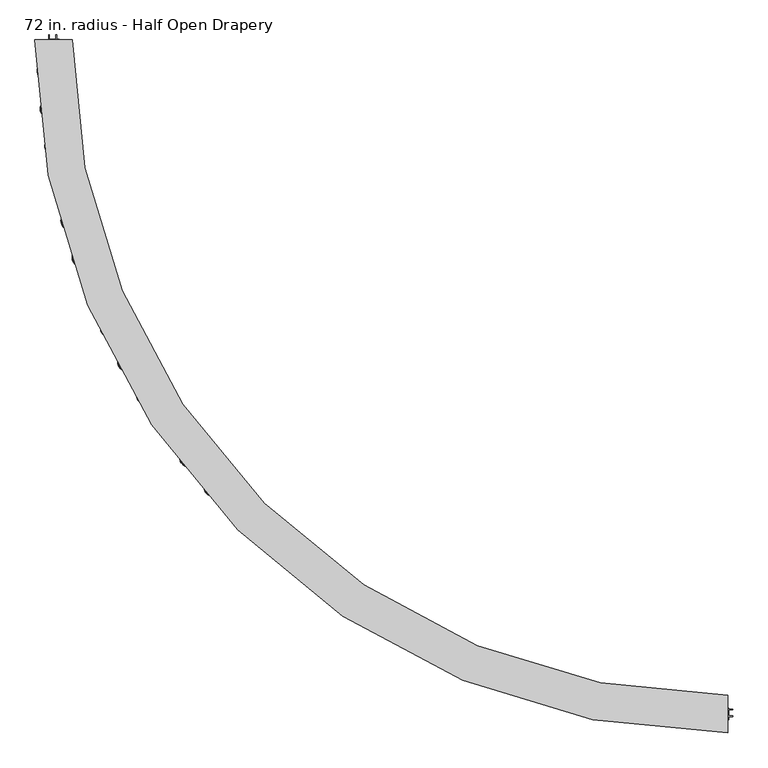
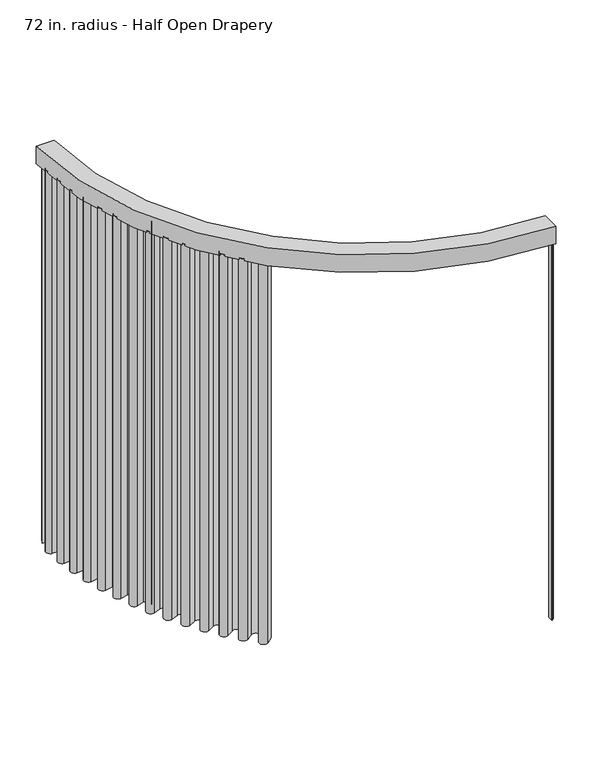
"""IFC4 building model written with IfcOpenShell, lengths in millimetres: furniture geometry, Haworth_Pergola_Drapery_Radial : 72 in. radius - Half Open Drapery."""

from ifc_helpers import new_model, si_unit, point, frame, frame_2d, origin, place, context, project, spatial, polyline, circle_curve, trimmed, segment, composite_curve, outline, extrude, source, transform, mapped, element, save
from ifc_brep_helpers import plane_surface, cylinder_surface, revolved_surface, advanced_brep


def furniture_72_in_radius_half_open_drapery_df3e1c9b(model_context):
    return source(origin(), model_context, "Body", "SolidModel", [
        advanced_brep(
        [(38.1006913, -1880.0004562, 2438.4), (38.1006913, -1880.0004562, 2331.8390625), (38.1006913, -1844.418751, 2331.8390625), (38.1006913, -1844.418751, 2388.7001663), (38.1006913, -1813.9821615, 2388.7001663), (38.1006913, -1813.9821615, 2331.8390625), (38.1006913, -1778.4004562, 2331.8390625), (38.1006913, -1778.4004562, 2438.4), (-1841.899765, 0.0, 2438.4), (-1740.299765, 0.0, 2438.4), (-1740.299765, 0.0, 2331.8390625), (-1775.8814702, 0.0, 2331.8390625), (-1775.8814702, 0.0, 2388.7001663), (-1806.3180598, 0.0, 2388.7001663), (-1806.3180598, 0.0, 2331.8390625), (-1841.899765, 0.0, 2331.8390625)],
        [
            (0, 1),
            (1, 2),
            (2, 3),
            (3, 4),
            (4, 5),
            (5, 6),
            (6, 7),
            (7, 0),
            (8, 9),
            (9, 10),
            (10, 11),
            (11, 12),
            (12, 13),
            (13, 14),
            (14, 15),
            (15, 8),
            (8, 0, circle_curve(frame((38.1006913, 0.0, 2438.4), z_axis=(0.0, 0.0, 1.0), x_axis=(0.0, -1.0, 0.0)), 1880.0004562)),
            (7, 9, circle_curve(frame((38.1006913, 0.0, 2438.4), z_axis=(0.0, 0.0, -1.0), x_axis=(0.0, -1.0, 0.0)), 1778.4004562)),
            (6, 10, circle_curve(frame((38.1006913, 0.0, 2331.8390625), z_axis=(0.0, 0.0, -1.0), x_axis=(0.0, -1.0, 0.0)), 1778.4004562)),
            (15, 1, circle_curve(frame((38.1006913, 0.0, 2331.8390625), z_axis=(0.0, 0.0, 1.0), x_axis=(0.0, -1.0, 0.0)), 1880.0004562)),
            (5, 11, circle_curve(frame((38.1006913, 0.0, 2331.8390625), z_axis=(0.0, 0.0, -1.0), x_axis=(0.0, -1.0, 0.0)), 1813.9821615)),
            (4, 12, circle_curve(frame((38.1006913, 0.0, 2388.7001663), z_axis=(0.0, 0.0, -1.0), x_axis=(0.0, -1.0, 0.0)), 1813.9821615)),
            (3, 13, circle_curve(frame((38.1006913, 0.0, 2388.7001663), z_axis=(0.0, 0.0, -1.0), x_axis=(0.0, -1.0, 0.0)), 1844.418751)),
            (2, 14, circle_curve(frame((38.1006913, 0.0, 2331.8390625), z_axis=(0.0, 0.0, -1.0), x_axis=(0.0, -1.0, 0.0)), 1844.418751)),
        ],
        [
            plane_surface(frame((38.1006913, 0.0, 2451.1), z_axis=(1.0, 0.0, 0.0), x_axis=(0.0, -1.0, 0.0))),
            plane_surface(frame((38.1006913, 0.0, 2451.1), z_axis=(0.0, 1.0, 0.0), x_axis=(-1.0, 0.0, 0.0))),
            plane_surface(frame((38.1006913, 0.0, 2438.4), z_axis=(0.0, 0.0, 1.0), x_axis=(0.0, -1.0, 0.0))),
            revolved_surface(polyline([(38.1006913, -1778.4004562, 2438.4), (38.1006913, -1778.4004562, 2331.8390625)]), (38.1006913, 0.0, 2451.1), (0.0, 0.0, 1.0)),
            cylinder_surface(frame((38.1006913, 0.0, 2451.1), z_axis=(0.0, 0.0, 1.0), x_axis=(0.0, -1.0, 0.0)), 1880.0004562),
            plane_surface(frame((38.1006913, 0.0, 2331.8390625), z_axis=(0.0, 0.0, -1.0), x_axis=(0.0, -1.0, 0.0))),
            cylinder_surface(frame((38.1006913, 0.0, 2451.1), z_axis=(0.0, 0.0, 1.0), x_axis=(0.0, -1.0, 0.0)), 1813.9821615),
            plane_surface(frame((38.1006913, 0.0, 2388.7001663), z_axis=(0.0, 0.0, -1.0), x_axis=(0.0, -1.0, 0.0))),
            revolved_surface(polyline([(38.1006913, -1844.418751, 2388.7001663), (38.1006913, -1844.418751, 2331.8390625)]), (38.1006913, 0.0, 2451.1), (0.0, 0.0, 1.0)),
        ],
        [
            (0, [[1, 2, 3, 4, 5, 6, 7, 8]]),
            (1, [[9, 10, 11, 12, 13, 14, 15, 16]]),
            (2, [[-9, 17, -8, 18]]),
            (3, [[-10, -18, -7, 19]]),
            (4, [[-16, 20, -1, -17]]),
            (5, [[-11, -19, -6, 21]]),
            (6, [[-12, -21, -5, 22]]),
            (7, [[-13, -22, -4, 23]]),
            (8, [[-14, -23, -3, 24]]),
            (5, [[-15, -24, -2, -20]]),
        ],
    ),
        extrude(outline(composite_curve([segment(polyline([(-1813.2675039, -8.7991729), (-1772.6295579, -8.7991729)]), True, "CONTINUOUS"), segment(trimmed(circle_curve(frame_2d((-1772.6295579, -32.2004487)), 23.4012758), [point((-1772.6295579, -8.7991729))], [point((-1769.5733154, -55.4012911))], False, "CARTESIAN"), True, "CONTINUOUS"), segment(polyline([(-1769.5733154, -55.4012911), (-1814.5820386, -61.3302815)]), True, "CONTINUOUS"), segment(trimmed(circle_curve(frame_2d((-1811.5275882, -84.5175193)), 23.3875536), [point((-1814.5820386, -61.3302815))], [point((-1812.4679448, -107.8861606))], True, "CARTESIAN"), True, "CONTINUOUS"), segment(polyline([(-1812.4679448, -107.8861606), (-1767.0772376, -109.7126875)]), True, "CONTINUOUS"), segment(trimmed(circle_curve(frame_2d((-1768.0180469, -133.0925785)), 23.3988125), [point((-1767.0772376, -109.7126875))], [point((-1763.6719207, -156.0842208))], False, "CARTESIAN"), True, "CONTINUOUS"), segment(polyline([(-1763.6719207, -156.0842208), (-1808.1390259, -164.4898686)]), True, "CONTINUOUS"), segment(trimmed(circle_curve(frame_2d((-1803.7922369, -187.4850177)), 23.4023814), [point((-1808.1390259, -164.4898686))], [point((-1803.4264268, -210.8845398))], True, "CARTESIAN"), True, "CONTINUOUS"), segment(polyline([(-1803.4264268, -210.8845398), (-1758.1544767, -210.1767931)]), True, "CONTINUOUS"), segment(trimmed(circle_curve(frame_2d((-1757.788763, -233.5701509)), 23.3962162), [point((-1758.1544767, -210.1767931))], [point((-1752.1666126, -256.280817))], False, "CARTESIAN"), True, "CONTINUOUS"), segment(polyline([(-1752.1666126, -256.280817), (-1796.2385255, -267.1910617)]), True, "CONTINUOUS"), segment(trimmed(circle_curve(frame_2d((-1790.6174697, -289.897306)), 23.3916608), [point((-1796.2385255, -267.1910617))], [point((-1788.9468109, -313.2292304))], True, "CARTESIAN"), True, "CONTINUOUS"), segment(polyline([(-1788.9468109, -313.2292304), (-1743.6418444, -309.9852142)]), True, "CONTINUOUS"), segment(trimmed(circle_curve(frame_2d((-1741.9710116, -333.3195691)), 23.3940975), [point((-1743.6418444, -309.9852142))], [point((-1735.090504, -355.6789611))], False, "CARTESIAN"), True, "CONTINUOUS"), segment(polyline([(-1735.090504, -355.6789611), (-1778.2790827, -368.9690964)]), True, "CONTINUOUS"), segment(trimmed(circle_curve(frame_2d((-1771.3933974, -391.345314)), 23.4117016), [point((-1778.2790827, -368.9690964))], [point((-1768.4203708, -414.5674777))], True, "CARTESIAN"), True, "CONTINUOUS"), segment(polyline([(-1768.4203708, -414.5674777), (-1723.6645333, -408.8375939)]), True, "CONTINUOUS"), segment(trimmed(circle_curve(frame_2d((-1720.6927841, -432.0497797)), 23.4016423), [point((-1723.6645333, -408.8375939))], [point((-1712.5722691, -453.9973104))], False, "CARTESIAN"), True, "CONTINUOUS"), segment(polyline([(-1712.5722691, -453.9973104), (-1755.1039522, -469.7338948)]), True, "CONTINUOUS"), segment(trimmed(circle_curve(frame_2d((-1746.9867429, -491.6724911)), 23.3921161), [point((-1755.1039522, -469.7338948))], [point((-1742.7256125, -514.6732272))], True, "CARTESIAN"), True, "CONTINUOUS"), segment(polyline([(-1742.7256125, -514.6732272), (-1697.9086259, -506.3704048)]), True, "CONTINUOUS"), segment(trimmed(circle_curve(frame_2d((-1693.6505392, -529.3547116)), 23.3754072), [point((-1697.9086259, -506.3704048))], [point((-1684.3279752, -550.7906503))], False, "CARTESIAN"), True, "CONTINUOUS"), segment(polyline([(-1684.3279752, -550.7906503), (-1726.0260801, -568.9253005)]), True, "CONTINUOUS"), segment(trimmed(circle_curve(frame_2d((-1716.6931292, -590.3851225)), 23.4014515), [point((-1726.0260801, -568.9253005))], [point((-1711.1524728, -613.1211965))], True, "CARTESIAN"), True, "CONTINUOUS"), segment(polyline([(-1711.1524728, -613.1211965), (-1667.3171935, -602.4387796)]), True, "CONTINUOUS"), segment(trimmed(circle_curve(frame_2d((-1661.7731813, -625.1886241)), 23.415625), [point((-1667.3171935, -602.4387796))], [point((-1651.2505193, -646.1066804))], False, "CARTESIAN"), True, "CONTINUOUS"), segment(polyline([(-1651.2505193, -646.1066804), (-1691.4084565, -666.3078116)]), True, "CONTINUOUS"), segment(trimmed(circle_curve(frame_2d((-1680.8857945, -687.2258679)), 23.415625), [point((-1691.4084565, -666.3078116))], [point((-1674.0805411, -709.6307785))], True, "CARTESIAN"), True, "CONTINUOUS"), segment(polyline([(-1674.0805411, -709.6307785), (-1631.0682332, -696.5662472)]), True, "CONTINUOUS"), segment(trimmed(circle_curve(frame_2d((-1624.2629798, -718.9711579)), 23.415625), [point((-1631.0682332, -696.5662472))], [point((-1612.5890376, -739.2692013))], False, "CARTESIAN"), True, "CONTINUOUS"), segment(polyline([(-1612.5890376, -739.2692013), (-1651.5569066, -761.6806544)]), True, "CONTINUOUS"), segment(trimmed(circle_curve(frame_2d((-1639.8829645, -781.9786979)), 23.415625), [point((-1651.5569066, -761.6806544))], [point((-1631.8376273, -803.9687876))], True, "CARTESIAN"), True, "CONTINUOUS"), segment(polyline([(-1631.8376273, -803.9687876), (-1589.621034, -788.5233422)]), True, "CONTINUOUS"), segment(trimmed(circle_curve(frame_2d((-1581.5756968, -810.5134319)), 23.415625), [point((-1589.621034, -788.5233422))], [point((-1568.7868916, -830.1281701))], False, "CARTESIAN"), True, "CONTINUOUS"), segment(polyline([(-1568.7868916, -830.1281701), (-1606.4430265, -854.679962)]), True, "CONTINUOUS"), segment(trimmed(circle_curve(frame_2d((-1593.6542213, -874.2947002)), 23.415625), [point((-1606.4430265, -854.679962))], [point((-1584.3938871, -895.80139))], True, "CARTESIAN"), True, "CONTINUOUS"), segment(polyline([(-1584.3938871, -895.80139), (-1543.1059922, -878.0236793)]), True, "CONTINUOUS"), segment(trimmed(circle_curve(frame_2d((-1533.8456579, -899.5303691)), 23.415625), [point((-1543.1059922, -878.0236793))], [point((-1519.9818326, -918.400606))], False, "CARTESIAN"), True, "CONTINUOUS"), segment(polyline([(-1519.9818326, -918.400606), (-1556.208361, -945.0159719)]), True, "CONTINUOUS"), segment(trimmed(circle_curve(frame_2d((-1542.3445357, -963.8862088)), 23.415625), [point((-1556.208361, -945.0159719))], [point((-1531.8981359, -984.8424543))], True, "CARTESIAN"), True, "CONTINUOUS"), segment(polyline([(-1531.8981359, -984.8424543), (-1491.6668228, -964.7876988)]), True, "CONTINUOUS"), segment(trimmed(circle_curve(frame_2d((-1481.220423, -985.7439443)), 23.415625), [point((-1491.6668228, -964.7876988))], [point((-1466.324897, -1003.8108975))], False, "CARTESIAN"), True, "CONTINUOUS"), segment(polyline([(-1466.324897, -1003.8108975), (-1501.0096283, -1032.4071589)]), True, "CONTINUOUS"), segment(trimmed(circle_curve(frame_2d((-1486.1141024, -1050.4741121)), 23.415625), [point((-1501.0096283, -1032.4071589))], [point((-1474.5141735, -1070.8145434))], True, "CARTESIAN"), True, "CONTINUOUS"), segment(polyline([(-1474.5141735, -1070.8145434), (-1435.4647784, -1048.545094)]), True, "CONTINUOUS"), segment(trimmed(circle_curve(frame_2d((-1423.8648496, -1068.8855253)), 23.415625), [point((-1435.4647784, -1048.545094))], [point((-1407.9840223, -1086.092815))], False, "CARTESIAN"), True, "CONTINUOUS"), segment(polyline([(-1407.9840223, -1086.092815), (-1441.0181065, -1116.5803929)]), True, "CONTINUOUS"), segment(trimmed(circle_curve(frame_2d((-1425.1372792, -1133.7876826)), 23.415625), [point((-1441.0181065, -1116.5803929))], [point((-1412.4200042, -1153.4488731))], True, "CARTESIAN"), True, "CONTINUOUS"), segment(polyline([(-1412.4200042, -1153.4488731), (-1374.6748643, -1129.034516)]), True, "CONTINUOUS"), segment(trimmed(circle_curve(frame_2d((-1361.9575893, -1148.6957065)), 23.415625), [point((-1374.6748643, -1129.034516))], [point((-1345.1409844, -1164.9896714))], False, "CARTESIAN"), True, "CONTINUOUS"), segment(polyline([(-1345.1409844, -1164.9896714), (-1376.4215721, -1197.2736052)]), True, "CONTINUOUS"), segment(trimmed(circle_curve(frame_2d((-1359.6049671, -1213.5675701)), 23.415625), [point((-1376.4215721, -1197.2736052))], [point((-1345.8100214, -1232.4882193))], True, "CARTESIAN"), True, "CONTINUOUS"), segment(polyline([(-1345.8100214, -1232.4882193), (-1309.4865095, -1206.004938)]), True, "CONTINUOUS"), segment(trimmed(circle_curve(frame_2d((-1295.6915637, -1224.9255872)), 23.415625), [point((-1309.4865095, -1206.004938))], [point((-1277.9916148, -1240.2554046))], False, "CARTESIAN"), True, "CONTINUOUS"), segment(polyline([(-1277.9916148, -1240.2554046), (-1307.4214654, -1274.2353823)]), True, "CONTINUOUS"), segment(trimmed(circle_curve(frame_2d((-1289.7215165, -1289.5651997)), 23.415625), [point((-1307.4214654, -1274.2353823))], [point((-1274.8918808, -1307.6862757))], True, "CARTESIAN"), True, "CONTINUOUS"), segment(polyline([(-1274.8918808, -1307.6862757), (-1240.1648625, -1279.2669353), (-1239.6008033, -1279.8309945), (-1274.3891813, -1308.3005495)]), True, "CONTINUOUS"), segment(trimmed(circle_curve(frame_2d((-1289.7215165, -1289.5651997)), 24.209375), [point((-1274.3891813, -1308.3005495))], [point((-1308.0214637, -1273.7157274))], False, "CARTESIAN"), True, "CONTINUOUS"), segment(polyline([(-1308.0214637, -1273.7157274), (-1278.5916131, -1239.7357497)]), True, "CONTINUOUS"), segment(trimmed(circle_curve(frame_2d((-1295.6915637, -1224.9255872)), 22.621875), [point((-1278.5916131, -1239.7357497))], [point((-1309.0188842, -1206.6463159))], True, "CARTESIAN"), True, "CONTINUOUS"), segment(polyline([(-1309.0188842, -1206.6463159), (-1345.3423961, -1233.1295973)]), True, "CONTINUOUS"), segment(trimmed(circle_curve(frame_2d((-1359.6049671, -1213.5675701)), 24.209375), [point((-1345.3423961, -1233.1295973))], [point((-1376.9916265, -1196.7212674))], False, "CARTESIAN"), True, "CONTINUOUS"), segment(polyline([(-1376.9916265, -1196.7212674), (-1345.7110388, -1164.4373336)]), True, "CONTINUOUS"), segment(trimmed(circle_curve(frame_2d((-1361.9575893, -1148.6957065)), 22.621875), [point((-1345.7110388, -1164.4373336))], [point((-1374.2437703, -1129.7009971))], True, "CARTESIAN"), True, "CONTINUOUS"), segment(polyline([(-1374.2437703, -1129.7009971), (-1411.9889102, -1154.1153541)]), True, "CONTINUOUS"), segment(trimmed(circle_curve(frame_2d((-1425.1372792, -1133.7876826)), 24.209375), [point((-1411.9889102, -1154.1153541))], [point((-1441.5564396, -1115.9970949))], False, "CARTESIAN"), True, "CONTINUOUS"), segment(polyline([(-1441.5564396, -1115.9970949), (-1408.5223554, -1085.509517)]), True, "CONTINUOUS"), segment(trimmed(circle_curve(frame_2d((-1423.8648496, -1068.8855253)), 22.621875), [point((-1408.5223554, -1085.509517))], [point((-1435.0715605, -1049.2346001))], True, "CARTESIAN"), True, "CONTINUOUS"), segment(polyline([(-1435.0715605, -1049.2346001), (-1474.1209556, -1071.5040495)]), True, "CONTINUOUS"), segment(trimmed(circle_curve(frame_2d((-1486.1141024, -1050.4741121)), 24.209375), [point((-1474.1209556, -1071.5040495))], [point((-1501.5145614, -1031.7947198))], False, "CARTESIAN"), True, "CONTINUOUS"), segment(polyline([(-1501.5145614, -1031.7947198), (-1466.8298301, -1003.1984584)]), True, "CONTINUOUS"), segment(trimmed(circle_curve(frame_2d((-1481.220423, -985.7439443)), 22.621875), [point((-1466.8298301, -1003.1984584))], [point((-1491.3127076, -965.49808))], True, "CARTESIAN"), True, "CONTINUOUS"), segment(polyline([(-1491.3127076, -965.49808), (-1531.5440207, -985.5528355)]), True, "CONTINUOUS"), segment(trimmed(circle_curve(frame_2d((-1542.3445357, -963.8862088)), 24.209375), [point((-1531.5440207, -985.5528355))], [point((-1556.6783212, -944.3763028))], False, "CARTESIAN"), True, "CONTINUOUS"), segment(polyline([(-1556.6783212, -944.3763028), (-1520.4517928, -917.7609369)]), True, "CONTINUOUS"), segment(trimmed(circle_curve(frame_2d((-1533.8456579, -899.5303691)), 22.621875), [point((-1520.4517928, -917.7609369))], [point((-1542.7920826, -878.7527196))], True, "CARTESIAN"), True, "CONTINUOUS"), segment(polyline([(-1542.7920826, -878.7527196), (-1584.0799774, -896.5304303)]), True, "CONTINUOUS"), segment(trimmed(circle_curve(frame_2d((-1593.6542213, -874.2947002)), 24.209375), [point((-1584.0799774, -896.5304303))], [point((-1606.8765453, -854.0150556))], False, "CARTESIAN"), True, "CONTINUOUS"), segment(polyline([(-1606.8765453, -854.0150556), (-1569.2204104, -829.4632637)]), True, "CONTINUOUS"), segment(trimmed(circle_curve(frame_2d((-1581.5756968, -810.5134319)), 22.621875), [point((-1569.2204104, -829.4632637))], [point((-1589.3483107, -789.268769))], True, "CARTESIAN"), True, "CONTINUOUS"), segment(polyline([(-1589.3483107, -789.268769), (-1631.564904, -804.7142143)]), True, "CONTINUOUS"), segment(trimmed(circle_curve(frame_2d((-1639.8829645, -781.9786979)), 24.209375), [point((-1631.564904, -804.7142143))], [point((-1651.9526335, -760.9925851))], False, "CARTESIAN"), True, "CONTINUOUS"), segment(polyline([(-1651.9526335, -760.9925851), (-1612.9847645, -738.5811321)]), True, "CONTINUOUS"), segment(trimmed(circle_curve(frame_2d((-1624.2629798, -718.9711579)), 22.621875), [point((-1612.9847645, -738.5811321))], [point((-1630.8375466, -697.3257357))], True, "CARTESIAN"), True, "CONTINUOUS"), segment(polyline([(-1630.8375466, -697.3257357), (-1673.8498546, -710.390267)]), True, "CONTINUOUS"), segment(trimmed(circle_curve(frame_2d((-1680.8857945, -687.2258679)), 24.209375), [point((-1673.8498546, -710.390267))], [point((-1691.7651569, -665.5987249))], False, "CARTESIAN"), True, "CONTINUOUS"), segment(polyline([(-1691.7651569, -665.5987249), (-1651.6072198, -645.3975937)]), True, "CONTINUOUS"), segment(trimmed(circle_curve(frame_2d((-1661.7731813, -625.1886241)), 22.621875), [point((-1651.6072198, -645.3975937))], [point((-1667.1292609, -603.2099608))], True, "CARTESIAN"), True, "CONTINUOUS"), segment(polyline([(-1667.1292609, -603.2099608), (-1710.9645402, -613.8923776)]), True, "CONTINUOUS"), segment(trimmed(circle_curve(frame_2d((-1716.6931292, -590.3851225)), 24.1952015), [point((-1710.9645402, -613.8923776))], [point((-1726.3426429, -568.1974083))], False, "CARTESIAN"), True, "CONTINUOUS"), segment(polyline([(-1726.3426429, -568.1974083), (-1684.644538, -550.0627581)]), True, "CONTINUOUS"), segment(trimmed(circle_curve(frame_2d((-1693.6505392, -529.3547116)), 22.5816572), [point((-1684.644538, -550.0627581))], [point((-1697.7640357, -507.1508743))], True, "CARTESIAN"), True, "CONTINUOUS"), segment(polyline([(-1697.7640357, -507.1508743), (-1742.5810222, -515.4536967)]), True, "CONTINUOUS"), segment(trimmed(circle_curve(frame_2d((-1746.9867429, -491.6724911)), 24.1858661), [point((-1742.5810222, -515.4536967))], [point((-1755.3793884, -468.9894662))], False, "CARTESIAN"), True, "CONTINUOUS"), segment(polyline([(-1755.3793884, -468.9894662), (-1712.8477053, -453.2528817)]), True, "CONTINUOUS"), segment(trimmed(circle_curve(frame_2d((-1720.6927841, -432.0497797)), 22.6078923), [point((-1712.8477053, -453.2528817))], [point((-1723.5637359, -409.6249178))], True, "CARTESIAN"), True, "CONTINUOUS"), segment(polyline([(-1723.5637359, -409.6249178), (-1768.3195733, -415.3548016)]), True, "CONTINUOUS"), segment(trimmed(circle_curve(frame_2d((-1771.3933974, -391.345314)), 24.2054516), [point((-1768.3195733, -415.3548016))], [point((-1778.5125348, -368.2104535))], False, "CARTESIAN"), True, "CONTINUOUS"), segment(polyline([(-1778.5125348, -368.2104535), (-1735.3239561, -354.9203182)]), True, "CONTINUOUS"), segment(trimmed(circle_curve(frame_2d((-1741.9710116, -333.3195691)), 22.6003475), [point((-1735.3239561, -354.9203182))], [point((-1743.5851539, -310.7769372))], True, "CARTESIAN"), True, "CONTINUOUS"), segment(polyline([(-1743.5851539, -310.7769372), (-1788.8901204, -314.0209533)]), True, "CONTINUOUS"), segment(trimmed(circle_curve(frame_2d((-1790.6174697, -289.897306)), 24.1854108), [point((-1788.8901204, -314.0209533))], [point((-1796.4292649, -266.4205699))], False, "CARTESIAN"), True, "CONTINUOUS"), segment(polyline([(-1796.4292649, -266.4205699), (-1752.3573521, -255.5103253)]), True, "CONTINUOUS"), segment(trimmed(circle_curve(frame_2d((-1757.788763, -233.5701509)), 22.6024662), [point((-1752.3573521, -255.5103253))], [point((-1758.1420693, -210.9704462))], True, "CARTESIAN"), True, "CONTINUOUS"), segment(polyline([(-1758.1420693, -210.9704462), (-1803.4140194, -211.6781929)]), True, "CONTINUOUS"), segment(trimmed(circle_curve(frame_2d((-1803.7922369, -187.4850177)), 24.1961314), [point((-1803.4140194, -211.6781929))], [point((-1808.286458, -163.7099309))], False, "CARTESIAN"), True, "CONTINUOUS"), segment(polyline([(-1808.286458, -163.7099309), (-1763.8193529, -155.3042831)]), True, "CONTINUOUS"), segment(trimmed(circle_curve(frame_2d((-1768.0180469, -133.0925785)), 22.6050625), [point((-1763.8193529, -155.3042831))], [point((-1767.1091523, -110.5057956))], True, "CARTESIAN"), True, "CONTINUOUS"), segment(polyline([(-1767.1091523, -110.5057956), (-1812.4998595, -108.6792688)]), True, "CONTINUOUS"), segment(trimmed(circle_curve(frame_2d((-1811.5275882, -84.5175193)), 24.1813036), [point((-1812.4998595, -108.6792688))], [point((-1814.6857035, -60.54333))], False, "CARTESIAN"), True, "CONTINUOUS"), segment(polyline([(-1814.6857035, -60.54333), (-1769.6769803, -54.6143396)]), True, "CONTINUOUS"), segment(trimmed(circle_curve(frame_2d((-1772.6295579, -32.2004487)), 22.6075258), [point((-1769.6769803, -54.6143396))], [point((-1772.6295579, -9.5929229))], True, "CARTESIAN"), True, "CONTINUOUS"), segment(polyline([(-1772.6295579, -9.5929229), (-1813.2675039, -9.5929229), (-1813.2675039, -8.7991729)]), True, "CONTINUOUS")], self_intersect=False)), frame((0.0, 0.0, 38.1), z_axis=(0.0, 0.0, 1.0), x_axis=(1.0, 0.0, 0.0)), (0.0, 0.0, 1.0), 2305.05),
        extrude(outline(polyline([(-1785.7851322, 1.7500481), (-1785.7851322, 13.4000477), (-1782.7851325, 13.4000477), (-1782.7851325, 1.7500481), (-1775.3851328, 1.7500481), (-1775.3851328, 0.0), (-1805.8351319, 0.0), (-1805.8351319, 1.7500481), (-1804.010132, 1.7500481), (-1804.010132, 13.2500478), (-1802.4351327, 13.2500478), (-1802.4351327, 1.7500481), (-1785.7851322, 1.7500481)])), frame((0.0, 0.0, 38.1), z_axis=(0.0, 0.0, 1.0), x_axis=(1.0, 0.0, 0.0)), (0.0, 0.0, 1.0), 2317.75),
        extrude(outline(polyline([(39.849994, -1844.0291096), (38.1, -1844.0291096), (38.1, -1813.5790787), (39.849994, -1813.5790787), (39.849994, -1815.40404), (51.3500188, -1815.40404), (51.3500188, -1816.9790892), (39.849994, -1816.9790892), (39.849994, -1833.6290177), (51.5000097, -1833.6290177), (51.5000097, -1836.6291253), (39.849994, -1836.6291253), (39.849994, -1844.0291096)])), frame((0.0, 0.0, 38.1), z_axis=(0.0, 0.0, 1.0), x_axis=(1.0, 0.0, 0.0)), (0.0, 0.0, 1.0), 2317.75),
        extrude(outline(composite_curve([segment(polyline([(38.1, -1813.5070171), (38.1, -1844.7832164)]), True, "CONTINUOUS"), segment(trimmed(circle_curve(frame_2d((38.1, 0.0)), 1844.7832163), [point((38.1, -1844.7832164))], [point((-1806.6832164, 0.0))], False, "CARTESIAN"), True, "CONTINUOUS"), segment(polyline([(-1806.6832164, 0.0), (-1775.4070171, 0.0)]), True, "CONTINUOUS"), segment(trimmed(circle_curve(frame_2d((38.1, 0.0)), 1813.507017), [point((-1775.4070171, 0.0))], [point((38.1, -1813.5070171))], True, "CARTESIAN"), True, "CONTINUOUS")], self_intersect=False)), frame((0.0, 0.0, 2355.85), z_axis=(0.0, 0.0, 1.0), x_axis=(1.0, 0.0, 0.0)), (0.0, 0.0, 1.0), 1.7500001),
    ])


if __name__ == "__main__":
    model = new_model("IFC4")
    model_context = context("Model", 3, world=origin())
    ifc_project = project(units=[si_unit("LENGTHUNIT", "METRE", prefix="MILLI")], contexts=[model_context])
    site = spatial("IfcSite", under=ifc_project)
    building = spatial("IfcBuilding", under=site)
    placement = place(None, origin())
    furniture_72_in_radius_half_open_drapery_shape = furniture_72_in_radius_half_open_drapery_df3e1c9b(model_context)
    element("IfcFurniture", 1, ObjectType="Haworth_Pergola_Drapery_Radial : 72 in. radius - Half Open Drapery", at=placement, inside=building, context=model_context, shape_type="MappedRepresentation", body=[
        mapped(furniture_72_in_radius_half_open_drapery_shape, transform((0.0, 0.0, 0.0), x_axis=(1.0, 0.0, 0.0), y_axis=(0.0, 1.0, 0.0), z_axis=(0.0, 0.0, 1.0))),
    ])
    save(model, "model.ifc")
